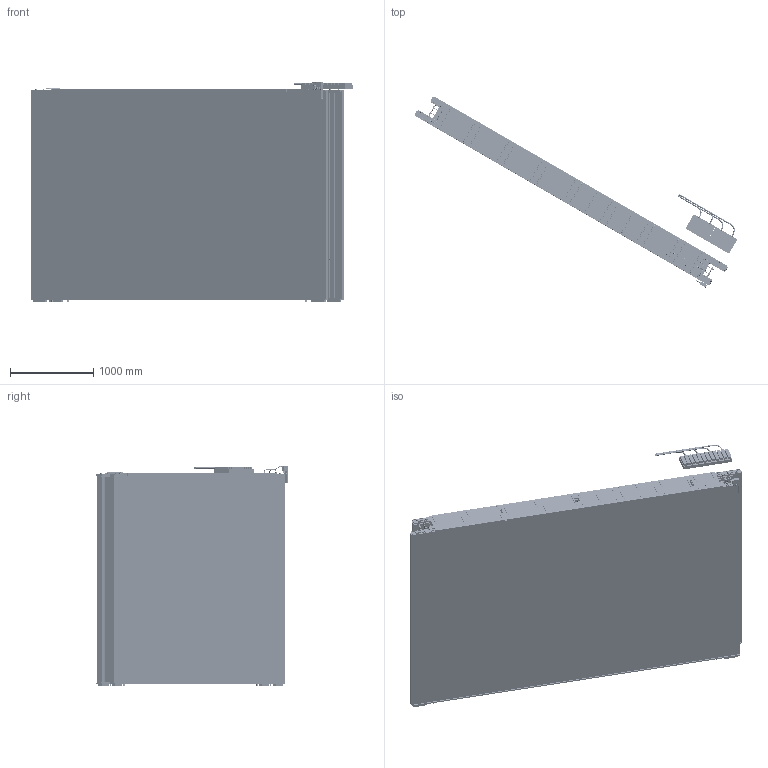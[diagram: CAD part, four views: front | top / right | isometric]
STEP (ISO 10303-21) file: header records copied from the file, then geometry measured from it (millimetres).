
FILE_DESCRIPTION(/* description */ (''),/* implementation_level */ '2;1');
FILE_NAME(/* name */ '040209_mb45_2_4_3_dx_phi_R_carters.stp',/* time_stamp */ '2022-04-13T14:36:49+02:00',/* author */ (''),/* organization */ (''),/* preprocessor_version */ 'ST-DEVELOPER v18.1',/* originating_system */ 'SIEMENS PLM Software NX 1992',/* authorisation */ '');
FILE_SCHEMA (('AUTOMOTIVE_DESIGN { 1 0 10303 214 3 1 1 1 }'));
Products named in the file (1): zago2B10850Da0f4
Bounding box: 3866.5 x 2290.86 x 2646.02 mm (x, y, z)
Volume: 2861027773.9 mm3; surface area: 339579712.3 mm2
Topology: 322 solids, 322 shells, 11135 faces, 29320 edges, 18822 vertices
Faces by surface type: plane 6464, cylinder 3744, cone 746, bspline 88, torus 69, sphere 24
Full cylindrical faces by diameter (mm): 1 x244, 1.675 x8, 2.594 x36, 3 x48, 3.2 x8, 3.25 x2, 3.3 x24, 3.432 x481, 3.5 x38, 3.778 x7, 4 x34, 4.351 x4, 4.5 x4, 4.8 x33, 5 x58, 5.188 x24, 5.5 x292, 6 x27, 6.4 x47, 6.5 x1, 7 x2, 7.5 x48, 8 x41, 8.6 x4, 8.782 x4, 8.8 x10, 8.933 x16, 8.985 x24, 9.061 x1, 9.391 x72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
Entity records: 364097 total; most frequent: CARTESIAN_POINT 90958, DIRECTION 52971, ORIENTED_EDGE 50418, EDGE_CURVE 25209, AXIS2_PLACEMENT_3D 18420, VERTEX_POINT 17647, EDGE_LOOP 16509, LINE 16131
